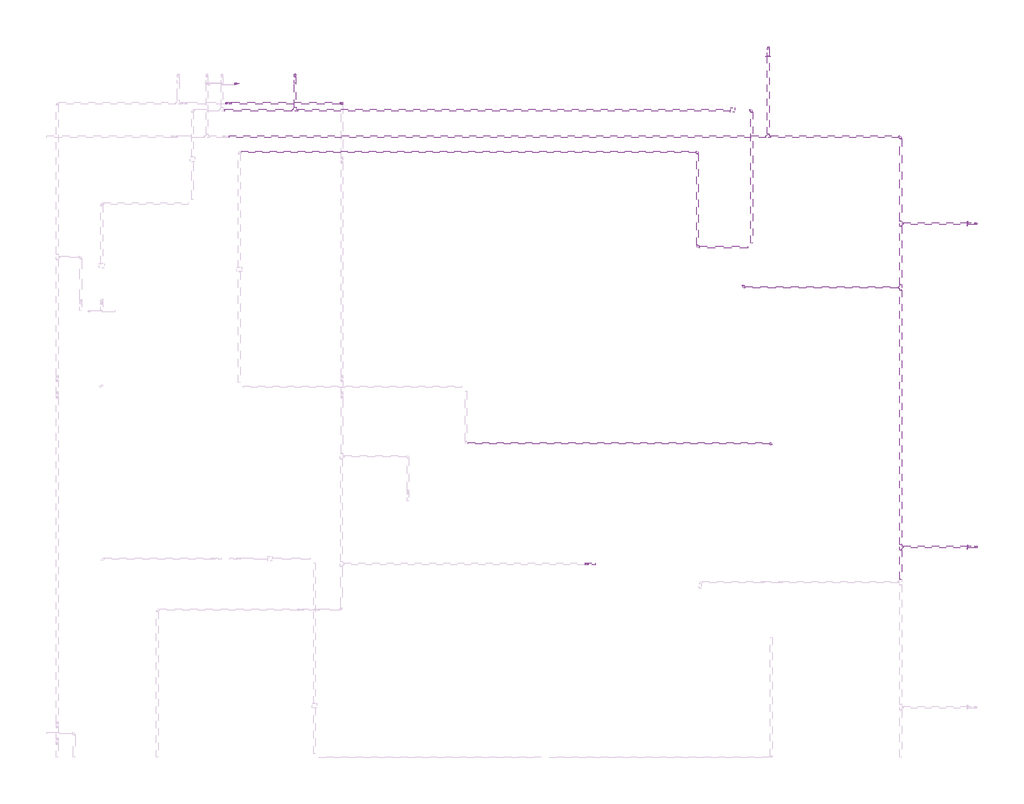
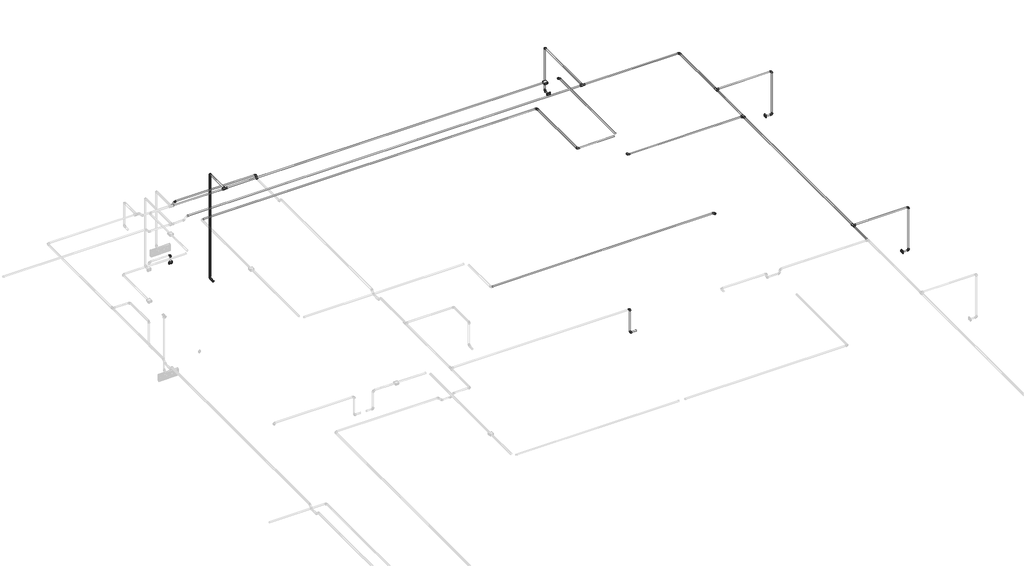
# One storey, part 40 of 40: 33 cable carrier segments, 26 cable carrier fittings, 4 electric appliances, 1 alarm.
"""IFC4 building model written with IfcOpenShell, lengths in millimetres."""

from ifc_helpers import new_model, si_unit, point, frame, frame_2d, origin, place, context, project, spatial, circle_curve, trimmed, segment, composite_curve, outline, extrude, transform, mapped, element, save
from components import alarm_a2247946, cable_carrier_fitting_69f1a801, cable_carrier_fitting_8122f9af, cable_carrier_fitting_8fd13dfc, cable_carrier_fitting_562c9cff, electric_appliance_5961a143

model = new_model("IFC4")

# Units and contexts
model_context = context("Model", 3, world=origin())
ifc_project = project(units=[si_unit("LENGTHUNIT", "METRE", prefix="MILLI")], contexts=[model_context])

# Site, building, storey
site = spatial("IfcSite", under=ifc_project)
building = spatial("IfcBuilding", under=site)
storey = spatial("IfcBuildingStorey", under=building, Name="1 этаж", Elevation=0.0)

# Alarm
placement = place(None, origin())
alarm_shape = alarm_a2247946(model_context)
element("IfcAlarm", 1, ObjectType="RBZ_ИзоляторШлейфа_Рубеж_ИЗ-1_прот.R3(плоскость) : ИЗ-1 прот.R3", at=placement, inside=storey, context=model_context, shape_type="MappedRepresentation", body=[
    mapped(alarm_shape, transform((17722.6759979, 21124.6367649, 3200.103876), x_axis=(1.0, 0.0, 0.0), y_axis=(0.0, 1.0, 0.0), z_axis=(0.0, 0.0, 1.0))),
])

# Cable carrier fittings
cable_carrier_fitting_shape = cable_carrier_fitting_69f1a801(model_context)
element("IfcCableCarrierFitting", 2, ObjectType="ADSK_Поворот_Минимальный размер : Неспецифицируемый", at=placement, inside=storey, context=model_context, shape_type="MappedRepresentation", body=[
    mapped(cable_carrier_fitting_shape, transform((18157.6759979, 17381.136913, 3189.2746228), x_axis=(0.0, 0.9999999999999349, -3.6093478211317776e-07), y_axis=(-1.0000000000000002, 0.0, 0.0), z_axis=(0.0, 3.6093478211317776e-07, 0.9999999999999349))),
])
element("IfcCableCarrierFitting", 3, ObjectType="ADSK_Поворот_Минимальный размер : Неспецифицируемый", at=placement, inside=storey, context=model_context, shape_type="MappedRepresentation", body=[
    mapped(cable_carrier_fitting_shape, transform((12807.6759979, 21521.8368161, 1500.0), x_axis=(0.0, 1.0, 0.0), y_axis=(0.0, 0.0, 1.0), z_axis=(1.0, 0.0, 0.0))),
])
element("IfcCableCarrierFitting", 4, ObjectType="ADSK_Поворот_Минимальный размер : Неспецифицируемый", at=placement, inside=storey, context=model_context, shape_type="MappedRepresentation", body=[
    mapped(cable_carrier_fitting_shape, transform((12807.6759979, 21521.8368161, 3189.353876), x_axis=(0.0, 0.0, 1.0), y_axis=(0.0, -1.0, 0.0), z_axis=(1.0, 0.0, 0.0))),
])
element("IfcCableCarrierFitting", 5, ObjectType="ADSK_Поворот_Минимальный размер : Неспецифицируемый", at=placement, inside=storey, context=model_context, shape_type="MappedRepresentation", body=[
    mapped(cable_carrier_fitting_shape, transform((18122.6759979, 21828.8368161, 2488.0911237), x_axis=(0.0, 1.0, 0.0), y_axis=(0.0, 0.0, 1.0), z_axis=(1.0, 0.0, 0.0))),
])
element("IfcCableCarrierFitting", 6, ObjectType="ADSK_Поворот_Минимальный размер : Неспецифицируемый", at=placement, inside=storey, context=model_context, shape_type="MappedRepresentation", body=[
    mapped(cable_carrier_fitting_shape, transform((20461.8758035, 19849.6370105, 2488.0911237), x_axis=(1.0, 0.0, 0.0), y_axis=(0.0, 0.0, 1.0), z_axis=(0.0, -1.0, 0.0))),
])
element("IfcCableCarrierFitting", 7, ObjectType="ADSK_Поворот_Минимальный размер : Неспецифицируемый", at=placement, inside=storey, context=model_context, shape_type="MappedRepresentation", body=[
    mapped(cable_carrier_fitting_shape, transform((17840.1759979, 19131.7461911, 3187.0), x_axis=(0.0, -1.0, 0.0), y_axis=(1.0, 0.0, 0.0), z_axis=(0.0, 0.0, 1.0))),
])
element("IfcCableCarrierFitting", 8, ObjectType="ADSK_Поворот_Минимальный размер : Неспецифицируемый", at=placement, inside=storey, context=model_context, shape_type="MappedRepresentation", body=[
    mapped(cable_carrier_fitting_shape, transform((20461.8758035, 16214.6370105, 2488.0911237), x_axis=(1.0, 0.0, 0.0), y_axis=(0.0, 0.0, 1.0), z_axis=(0.0, -1.0, 0.0))),
])
element("IfcCableCarrierFitting", 9, ObjectType="ADSK_Поворот_Минимальный размер : Неспецифицируемый", at=placement, inside=storey, context=model_context, shape_type="MappedRepresentation", body=[
    mapped(cable_carrier_fitting_shape, transform((20461.8758035, 16214.6370105, 3187.0), x_axis=(0.0, 0.0, 1.0), y_axis=(-1.0, 0.0, 0.0), z_axis=(0.0, -1.0, 0.0))),
])
element("IfcCableCarrierFitting", 10, ObjectType="ADSK_Поворот_Минимальный размер : Неспецифицируемый", at=placement, inside=storey, context=model_context, shape_type="MappedRepresentation", body=[
    mapped(cable_carrier_fitting_shape, transform((16080.4761923, 16024.6370105, 2797.4861504), x_axis=(-1.0, 0.0, 0.0), y_axis=(0.0, 0.0, 1.0), z_axis=(0.0, 1.0, 0.0))),
])
element("IfcCableCarrierFitting", 11, ObjectType="ADSK_Поворот_Минимальный размер : Неспецифицируемый", at=placement, inside=storey, context=model_context, shape_type="MappedRepresentation", body=[
    mapped(cable_carrier_fitting_shape, transform((16080.4761923, 16024.6370105, 3180.0), x_axis=(0.0, 0.0, 1.0), y_axis=(-1.0, 0.0, 0.0), z_axis=(0.0, -1.0, 0.0))),
])
element("IfcCableCarrierFitting", 12, ObjectType="ADSK_Поворот_Минимальный размер : Неспецифицируемый", at=placement, inside=storey, context=model_context, shape_type="MappedRepresentation", body=[
    mapped(cable_carrier_fitting_shape, transform((17937.6759979, 21124.6367649, 3189.354197), x_axis=(0.0, 0.9999999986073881, 5.2775220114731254e-05), y_axis=(-0.9999999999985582, 8.961934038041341e-11, -1.6981329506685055e-06), z_axis=(-1.6981329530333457e-06, -5.277522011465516e-05, 0.9999999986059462))),
])
element("IfcCableCarrierFitting", 13, ObjectType="ADSK_Поворот_Минимальный размер : Неспецифицируемый", at=placement, inside=storey, context=model_context, shape_type="MappedRepresentation", body=[
    mapped(cable_carrier_fitting_shape, transform((17328.0296445, 19584.6370105, 3189.4), x_axis=(0.0, -1.0, 0.0), y_axis=(1.0, 0.0, 0.0), z_axis=(0.0, 0.0, 1.0))),
])
element("IfcCableCarrierFitting", 14, ObjectType="ADSK_Поворот_Минимальный размер : Неспецифицируемый", at=placement, inside=storey, context=model_context, shape_type="MappedRepresentation", body=[
    mapped(cable_carrier_fitting_shape, transform((19611.1577564, 20824.6370105, 3187.0), x_axis=(0.0, 1.0, 0.0), y_axis=(-1.0, 0.0, 0.0), z_axis=(0.0, 0.0, 1.0))),
])
element("IfcCableCarrierFitting", 15, ObjectType="ADSK_Поворот_Минимальный размер : Неспецифицируемый", at=placement, inside=storey, context=model_context, shape_type="MappedRepresentation", body=[
    mapped(cable_carrier_fitting_shape, transform((18122.6759979, 21828.8368161, 3187.0), x_axis=(0.0, 0.0, 1.0), y_axis=(0.0, -1.0, 0.0), z_axis=(1.0, 0.0, 0.0))),
])
element("IfcCableCarrierFitting", 16, ObjectType="ADSK_Поворот_Минимальный размер : Неспецифицируемый", at=placement, inside=storey, context=model_context, shape_type="MappedRepresentation", body=[
    mapped(cable_carrier_fitting_shape, transform((12149.7744952, 21421.6370105, 2160.0), x_axis=(0.0, 0.0, 1.0), y_axis=(-1.0, 0.0, 0.0), z_axis=(0.0, -1.0, 0.0))),
])
element("IfcCableCarrierFitting", 17, ObjectType="ADSK_Поворот_Минимальный размер : Неспецифицируемый", at=placement, inside=storey, context=model_context, shape_type="MappedRepresentation", body=[
    mapped(cable_carrier_fitting_shape, transform((13336.5137184, 21203.5340481, 3130.0), x_axis=(0.0, 1.0, 0.0), y_axis=(0.0, 0.0, 1.0), z_axis=(1.0, 0.0, 0.0))),
])
element("IfcCableCarrierFitting", 18, ObjectType="ADSK_Поворот_Минимальный размер : Неспецифицируемый", at=placement, inside=storey, context=model_context, shape_type="MappedRepresentation", body=[
    mapped(cable_carrier_fitting_shape, transform((13336.5137184, 21203.5340481, 3180.0), x_axis=(0.0, 0.0, 1.0), y_axis=(-1.0, 0.0, 0.0), z_axis=(0.0, -1.0, 0.0))),
])
element("IfcCableCarrierFitting", 19, ObjectType="ADSK_Поворот_Минимальный размер : Неспецифицируемый", at=placement, inside=storey, context=model_context, shape_type="MappedRepresentation", body=[
    mapped(cable_carrier_fitting_shape, transform((20461.8758035, 19849.6370105, 3187.0), x_axis=(0.0, 0.0, 1.0), y_axis=(-1.0, 0.0, 0.0), z_axis=(0.0, -1.0, 0.0))),
])
cable_carrier_fitting_2_shape = cable_carrier_fitting_8122f9af(model_context)
element("IfcCableCarrierFitting", 20, ObjectType="ADSK_Поворот_Минимальный размер : Неспецифицируемый", at=placement, inside=storey, context=model_context, shape_type="MappedRepresentation", body=[
    mapped(cable_carrier_fitting_2_shape, transform((12039.1117529, 21203.5340481, 3130.0), x_axis=(1.0, 0.0, 0.0), y_axis=(0.0, 0.0, 1.0), z_axis=(0.0, -1.0, 0.0))),
])
element("IfcCableCarrierFitting", 21, ObjectType="ADSK_Поворот_Минимальный размер : Неспецифицируемый", at=placement, inside=storey, context=model_context, shape_type="MappedRepresentation", body=[
    mapped(cable_carrier_fitting_2_shape, transform((12089.1117529, 21203.5340481, 3180.0), x_axis=(0.7071067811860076, 0.0, 0.7071067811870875), y_axis=(0.7071067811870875, 0.0, -0.7071067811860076), z_axis=(0.0, 1.0, 0.0))),
])
cable_carrier_fitting_3_shape = cable_carrier_fitting_8fd13dfc(model_context)
element("IfcCableCarrierFitting", 22, ObjectType="ADSK_Тройник : ПВХ", at=placement, inside=storey, context=model_context, shape_type="MappedRepresentation", body=[
    mapped(cable_carrier_fitting_3_shape, transform((12807.6759979, 21124.6367649, 3189.353876), x_axis=(-1.0, 0.0, 0.0), y_axis=(0.0, -1.0, 0.0), z_axis=(0.0, 0.0, 1.0))),
])
element("IfcCableCarrierFitting", 23, ObjectType="ADSK_Тройник : ПВХ", at=placement, inside=storey, context=model_context, shape_type="MappedRepresentation", body=[
    mapped(cable_carrier_fitting_3_shape, transform((19611.1577564, 19131.7461911, 3187.0), x_axis=(0.0, -1.0, 0.0), y_axis=(1.0, 0.0, 0.0), z_axis=(0.0, 0.0, 1.0))),
])
element("IfcCableCarrierFitting", 24, ObjectType="ADSK_Тройник : ПВХ", at=placement, inside=storey, context=model_context, shape_type="MappedRepresentation", body=[
    mapped(cable_carrier_fitting_3_shape, transform((19611.1577564, 16214.6370105, 3187.0), x_axis=(0.0, 1.0, 0.0), y_axis=(-1.0, 0.0, 0.0), z_axis=(0.0, 0.0, 1.0))),
])
element("IfcCableCarrierFitting", 25, ObjectType="ADSK_Тройник : ПВХ", at=placement, inside=storey, context=model_context, shape_type="MappedRepresentation", body=[
    mapped(cable_carrier_fitting_3_shape, transform((18122.6759979, 20824.6370105, 3187.0), x_axis=(-1.0, 0.0, 0.0), y_axis=(0.0, -1.0, 0.0), z_axis=(0.0, 0.0, 1.0))),
])
element("IfcCableCarrierFitting", 26, ObjectType="ADSK_Тройник : ПВХ", at=placement, inside=storey, context=model_context, shape_type="MappedRepresentation", body=[
    mapped(cable_carrier_fitting_3_shape, transform((19611.1577564, 19849.6370105, 3187.0), x_axis=(0.0, 1.0, 0.0), y_axis=(-1.0, 0.0, 0.0), z_axis=(0.0, 0.0, 1.0))),
])
cable_carrier_fitting_4_shape = cable_carrier_fitting_562c9cff(model_context)
element("IfcCableCarrierFitting", 27, ObjectType="ADSK_Поворот_Минимальный размер : Неспецифицируемый", at=placement, inside=storey, context=model_context, shape_type="MappedRepresentation", body=[
    mapped(cable_carrier_fitting_4_shape, transform((17328.0296445, 20654.6365073, 3189.4), x_axis=(0.0, 1.0, 0.0), y_axis=(-1.0, 0.0, 0.0), z_axis=(0.0, 0.0, 1.0))),
])

# Cable carrier segments
element("IfcCableCarrierSegment", 28, ObjectType="Гофрированная труба", at=placement, inside=storey, context=model_context, shape_type="SweptSolid", body=[
    extrude(outline(composite_curve([segment(trimmed(circle_curve(frame_2d((17381.136913, 3189.2746228)), 10.0), [point((17391.136913, 3189.2742034))], [point((17381.1364935, 3179.2746228))], False, "CARTESIAN"), True, "CONTINUOUS"), segment(trimmed(circle_curve(frame_2d((17381.136913, 3189.2746228)), 10.0), [point((17381.1364935, 3179.2746228))], [point((17371.136913, 3189.2750423))], False, "CARTESIAN"), True, "CONTINUOUS"), segment(trimmed(circle_curve(frame_2d((17381.136913, 3189.2746228)), 10.0), [point((17371.136913, 3189.2750423))], [point((17381.1373325, 3199.2746228))], False, "CARTESIAN"), True, "CONTINUOUS"), segment(trimmed(circle_curve(frame_2d((17381.136913, 3189.2746228)), 10.0), [point((17381.1373325, 3199.2746228))], [point((17391.136913, 3189.2742034))], False, "CARTESIAN"), True, "CONTINUOUS")], self_intersect=False)), frame((14748.6759979, 0.0, 0.0), z_axis=(1.0, 0.0, 0.0), x_axis=(0.0, 1.0, 0.0)), (0.0, 0.0, 1.0), 3388.0),
])
element("IfcCableCarrierSegment", 29, ObjectType="Гофрированная труба", at=placement, inside=storey, context=model_context, shape_type="SweptSolid", body=[
    extrude(outline(composite_curve([segment(trimmed(circle_curve(frame_2d((0.0, 10.0)), 10.0), [point((-10.0, 10.0))], [point((0.0, 20.0))], False, "CARTESIAN"), True, "CONTINUOUS"), segment(trimmed(circle_curve(frame_2d((0.0, 10.0)), 10.0), [point((0.0, 20.0))], [point((10.0, 10.0))], False, "CARTESIAN"), True, "CONTINUOUS"), segment(trimmed(circle_curve(frame_2d((0.0, 10.0)), 10.0), [point((10.0, 10.0))], [point((0.0, 0.0))], False, "CARTESIAN"), True, "CONTINUOUS"), segment(trimmed(circle_curve(frame_2d((0.0, 10.0)), 10.0), [point((0.0, 0.0))], [point((-10.0, 10.0))], False, "CARTESIAN"), True, "CONTINUOUS")], self_intersect=False)), frame((17307.0296463, 20654.6365092, 3179.4), z_axis=(-0.9999999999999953, 9.677645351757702e-08, 0.0), x_axis=(-9.677645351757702e-08, -0.9999999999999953, 0.0)), (0.0, 0.0, 1.0), 5103.8321798),
])
element("IfcCableCarrierSegment", 30, ObjectType="Гофрированная труба", at=placement, inside=storey, context=model_context, shape_type="SweptSolid", body=[
    extrude(outline(composite_curve([segment(trimmed(circle_curve(frame_2d((21124.6367649, 3189.353876)), 10.0), [point((21114.6367649, 3189.353876))], [point((21124.6367649, 3199.353876))], False, "CARTESIAN"), True, "CONTINUOUS"), segment(trimmed(circle_curve(frame_2d((21124.6367649, 3189.353876)), 10.0), [point((21124.6367649, 3199.353876))], [point((21134.6367649, 3189.353876))], False, "CARTESIAN"), True, "CONTINUOUS"), segment(trimmed(circle_curve(frame_2d((21124.6367649, 3189.353876)), 10.0), [point((21134.6367649, 3189.353876))], [point((21124.6367649, 3179.353876))], False, "CARTESIAN"), True, "CONTINUOUS"), segment(trimmed(circle_curve(frame_2d((21124.6367649, 3189.353876)), 10.0), [point((21124.6367649, 3179.353876))], [point((21114.6367649, 3189.353876))], False, "CARTESIAN"), True, "CONTINUOUS")], self_intersect=False)), frame((12017.6759979, 0.0, 0.0), z_axis=(1.0, 0.0, 0.0), x_axis=(0.0, 1.0, 0.0)), (0.0, 0.0, 1.0), 760.0),
])
element("IfcCableCarrierSegment", 31, ObjectType="Гофрированная труба", at=placement, inside=storey, context=model_context, shape_type="SweptSolid", body=[
    extrude(outline(composite_curve([segment(trimmed(circle_curve(frame_2d((21124.6367649, 3189.353876)), 10.0), [point((21134.6367649, 3189.353876))], [point((21124.6367649, 3179.353876))], False, "CARTESIAN"), True, "CONTINUOUS"), segment(trimmed(circle_curve(frame_2d((21124.6367649, 3189.353876)), 10.0), [point((21124.6367649, 3179.353876))], [point((21114.6367649, 3189.353876))], False, "CARTESIAN"), True, "CONTINUOUS"), segment(trimmed(circle_curve(frame_2d((21124.6367649, 3189.353876)), 10.0), [point((21114.6367649, 3189.353876))], [point((21124.6367649, 3199.353876))], False, "CARTESIAN"), True, "CONTINUOUS"), segment(trimmed(circle_curve(frame_2d((21124.6367649, 3189.353876)), 10.0), [point((21124.6367649, 3199.353876))], [point((21134.6367649, 3189.353876))], False, "CARTESIAN"), True, "CONTINUOUS")], self_intersect=False)), frame((12837.6759979, 0.0, 0.0), z_axis=(1.0, 0.0, 0.0), x_axis=(0.0, 1.0, 0.0)), (0.0, 0.0, 1.0), 4859.0),
])
element("IfcCableCarrierSegment", 32, ObjectType="Гофрированная труба", at=placement, inside=storey, context=model_context, shape_type="SweptSolid", body=[
    extrude(outline(composite_curve([segment(trimmed(circle_curve(frame_2d((0.0, -10.0)), 10.0), [point((0.0, 0.0))], [point((10.0, -10.0))], False, "CARTESIAN"), True, "CONTINUOUS"), segment(trimmed(circle_curve(frame_2d((0.0, -10.0)), 10.0), [point((10.0, -10.0))], [point((0.0, -20.0))], False, "CARTESIAN"), True, "CONTINUOUS"), segment(trimmed(circle_curve(frame_2d((0.0, -10.0)), 10.0), [point((0.0, -20.0))], [point((-10.0, -10.0))], False, "CARTESIAN"), True, "CONTINUOUS"), segment(trimmed(circle_curve(frame_2d((0.0, -10.0)), 10.0), [point((-10.0, -10.0))], [point((0.0, 0.0))], False, "CARTESIAN"), True, "CONTINUOUS")], self_intersect=False)), frame((17927.6759979, 19631.1370105, 3189.4), z_axis=(0.0, 0.9999999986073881, 5.277522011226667e-05), x_axis=(0.0, 5.277522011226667e-05, -0.9999999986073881)), (0.0, 0.0, 1.0), 1472.4997499),
])
element("IfcCableCarrierSegment", 33, ObjectType="Гофрированная труба", at=placement, inside=storey, context=model_context, shape_type="SweptSolid", body=[
    extrude(outline(composite_curve([segment(trimmed(circle_curve(frame_2d((3189.353876, 12807.6759979)), 10.0), [point((3189.353876, 12817.6759979))], [point((3199.353876, 12807.6759979))], False, "CARTESIAN"), True, "CONTINUOUS"), segment(trimmed(circle_curve(frame_2d((3189.353876, 12807.6759979)), 10.0), [point((3199.353876, 12807.6759979))], [point((3189.353876, 12797.6759979))], False, "CARTESIAN"), True, "CONTINUOUS"), segment(trimmed(circle_curve(frame_2d((3189.353876, 12807.6759979)), 10.0), [point((3189.353876, 12797.6759979))], [point((3179.353876, 12807.6759979))], False, "CARTESIAN"), True, "CONTINUOUS"), segment(trimmed(circle_curve(frame_2d((3189.353876, 12807.6759979)), 10.0), [point((3179.353876, 12807.6759979))], [point((3189.353876, 12817.6759979))], False, "CARTESIAN"), True, "CONTINUOUS")], self_intersect=False)), frame((0.0, 21154.6367649, 0.0), z_axis=(0.0, 1.0, 0.0), x_axis=(0.0, 0.0, 1.0)), (0.0, 0.0, 1.0), 346.2000512),
])
element("IfcCableCarrierSegment", 34, ObjectType="Гофрированная труба", at=placement, inside=storey, context=model_context, shape_type="SweptSolid", body=[
    extrude(outline(composite_curve([segment(trimmed(circle_curve(frame_2d((1500.0, 12807.6759979)), 10.0), [point((1500.0, 12817.6759979))], [point((1510.0, 12807.6759979))], False, "CARTESIAN"), True, "CONTINUOUS"), segment(trimmed(circle_curve(frame_2d((1500.0, 12807.6759979)), 10.0), [point((1510.0, 12807.6759979))], [point((1500.0, 12797.6759979))], False, "CARTESIAN"), True, "CONTINUOUS"), segment(trimmed(circle_curve(frame_2d((1500.0, 12807.6759979)), 10.0), [point((1500.0, 12797.6759979))], [point((1490.0, 12807.6759979))], False, "CARTESIAN"), True, "CONTINUOUS"), segment(trimmed(circle_curve(frame_2d((1500.0, 12807.6759979)), 10.0), [point((1490.0, 12807.6759979))], [point((1500.0, 12817.6759979))], False, "CARTESIAN"), True, "CONTINUOUS")], self_intersect=False)), frame((0.0, 21424.6370105, 0.0), z_axis=(0.0, 1.0, 0.0), x_axis=(0.0, 0.0, 1.0)), (0.0, 0.0, 1.0), 76.1998056),
])
element("IfcCableCarrierSegment", 35, ObjectType="Гофрированная труба", at=placement, inside=storey, context=model_context, shape_type="SweptSolid", body=[
    extrude(outline(composite_curve([segment(trimmed(circle_curve(frame_2d((12807.6759979, 21521.8368161)), 10.0), [point((12797.6759979, 21521.8368161))], [point((12807.6759979, 21531.8368161))], False, "CARTESIAN"), True, "CONTINUOUS"), segment(trimmed(circle_curve(frame_2d((12807.6759979, 21521.8368161)), 10.0), [point((12807.6759979, 21531.8368161))], [point((12817.6759979, 21521.8368161))], False, "CARTESIAN"), True, "CONTINUOUS"), segment(trimmed(circle_curve(frame_2d((12807.6759979, 21521.8368161)), 10.0), [point((12817.6759979, 21521.8368161))], [point((12807.6759979, 21511.8368161))], False, "CARTESIAN"), True, "CONTINUOUS"), segment(trimmed(circle_curve(frame_2d((12807.6759979, 21521.8368161)), 10.0), [point((12807.6759979, 21511.8368161))], [point((12797.6759979, 21521.8368161))], False, "CARTESIAN"), True, "CONTINUOUS")], self_intersect=False)), frame((0.0, 0.0, 1521.0), z_axis=(0.0, 0.0, 1.0), x_axis=(1.0, 0.0, 0.0)), (0.0, 0.0, 1.0), 1647.353876),
])
element("IfcCableCarrierSegment", 36, ObjectType="Гофрированная труба", at=placement, inside=storey, context=model_context, shape_type="SweptSolid", body=[
    extrude(outline(composite_curve([segment(trimmed(circle_curve(frame_2d((3187.0, 18122.6759979)), 10.0), [point((3187.0, 18112.6759979))], [point((3177.0, 18122.6759979))], False, "CARTESIAN"), True, "CONTINUOUS"), segment(trimmed(circle_curve(frame_2d((3187.0, 18122.6759979)), 10.0), [point((3177.0, 18122.6759979))], [point((3187.0, 18132.6759979))], False, "CARTESIAN"), True, "CONTINUOUS"), segment(trimmed(circle_curve(frame_2d((3187.0, 18122.6759979)), 10.0), [point((3187.0, 18132.6759979))], [point((3197.0, 18122.6759979))], False, "CARTESIAN"), True, "CONTINUOUS"), segment(trimmed(circle_curve(frame_2d((3187.0, 18122.6759979)), 10.0), [point((3197.0, 18122.6759979))], [point((3187.0, 18112.6759979))], False, "CARTESIAN"), True, "CONTINUOUS")], self_intersect=False)), frame((0.0, 20854.6370105, 0.0), z_axis=(0.0, 1.0, 0.0), x_axis=(0.0, 0.0, 1.0)), (0.0, 0.0, 1.0), 953.1998056),
])
element("IfcCableCarrierSegment", 37, ObjectType="Гофрированная труба", at=placement, inside=storey, context=model_context, shape_type="SweptSolid", body=[
    extrude(outline(composite_curve([segment(trimmed(circle_curve(frame_2d((2488.0911237, 18122.6759979)), 10.0), [point((2488.0911237, 18132.6759979))], [point((2498.0911237, 18122.6759979))], False, "CARTESIAN"), True, "CONTINUOUS"), segment(trimmed(circle_curve(frame_2d((2488.0911237, 18122.6759979)), 10.0), [point((2498.0911237, 18122.6759979))], [point((2488.0911237, 18112.6759979))], False, "CARTESIAN"), True, "CONTINUOUS"), segment(trimmed(circle_curve(frame_2d((2488.0911237, 18122.6759979)), 10.0), [point((2488.0911237, 18112.6759979))], [point((2478.0911237, 18122.6759979))], False, "CARTESIAN"), True, "CONTINUOUS"), segment(trimmed(circle_curve(frame_2d((2488.0911237, 18122.6759979)), 10.0), [point((2478.0911237, 18122.6759979))], [point((2488.0911237, 18132.6759979))], False, "CARTESIAN"), True, "CONTINUOUS")], self_intersect=False)), frame((0.0, 21731.6370105, 0.0), z_axis=(0.0, 1.0, 0.0), x_axis=(0.0, 0.0, 1.0)), (0.0, 0.0, 1.0), 76.1998056),
])
element("IfcCableCarrierSegment", 38, ObjectType="Гофрированная труба", at=placement, inside=storey, context=model_context, shape_type="SweptSolid", body=[
    extrude(outline(composite_curve([segment(trimmed(circle_curve(frame_2d((18122.6759979, 21828.8368161)), 10.0), [point((18112.6759979, 21828.8368161))], [point((18122.6759979, 21838.8368161))], False, "CARTESIAN"), True, "CONTINUOUS"), segment(trimmed(circle_curve(frame_2d((18122.6759979, 21828.8368161)), 10.0), [point((18122.6759979, 21838.8368161))], [point((18132.6759979, 21828.8368161))], False, "CARTESIAN"), True, "CONTINUOUS"), segment(trimmed(circle_curve(frame_2d((18122.6759979, 21828.8368161)), 10.0), [point((18132.6759979, 21828.8368161))], [point((18122.6759979, 21818.8368161))], False, "CARTESIAN"), True, "CONTINUOUS"), segment(trimmed(circle_curve(frame_2d((18122.6759979, 21828.8368161)), 10.0), [point((18122.6759979, 21818.8368161))], [point((18112.6759979, 21828.8368161))], False, "CARTESIAN"), True, "CONTINUOUS")], self_intersect=False)), frame((0.0, 0.0, 2509.0911237), z_axis=(0.0, 0.0, 1.0), x_axis=(1.0, 0.0, 0.0)), (0.0, 0.0, 1.0), 656.9088763),
])
element("IfcCableCarrierSegment", 39, ObjectType="Гофрированная труба", at=placement, inside=storey, context=model_context, shape_type="SweptSolid", body=[
    extrude(outline(composite_curve([segment(trimmed(circle_curve(frame_2d((19849.6370105, 3187.0)), 10.0), [point((19859.6370105, 3187.0))], [point((19849.6370105, 3177.0))], False, "CARTESIAN"), True, "CONTINUOUS"), segment(trimmed(circle_curve(frame_2d((19849.6370105, 3187.0)), 10.0), [point((19849.6370105, 3177.0))], [point((19839.6370105, 3187.0))], False, "CARTESIAN"), True, "CONTINUOUS"), segment(trimmed(circle_curve(frame_2d((19849.6370105, 3187.0)), 10.0), [point((19839.6370105, 3187.0))], [point((19849.6370105, 3197.0))], False, "CARTESIAN"), True, "CONTINUOUS"), segment(trimmed(circle_curve(frame_2d((19849.6370105, 3187.0)), 10.0), [point((19849.6370105, 3197.0))], [point((19859.6370105, 3187.0))], False, "CARTESIAN"), True, "CONTINUOUS")], self_intersect=False)), frame((19641.1577564, 0.0, 0.0), z_axis=(1.0, 0.0, 0.0), x_axis=(0.0, 1.0, 0.0)), (0.0, 0.0, 1.0), 799.7180471),
])
element("IfcCableCarrierSegment", 40, ObjectType="Гофрированная труба", at=placement, inside=storey, context=model_context, shape_type="SweptSolid", body=[
    extrude(outline(composite_curve([segment(trimmed(circle_curve(frame_2d((19849.6370105, 2488.0911237)), 10.0), [point((19839.6370105, 2488.0911237))], [point((19849.6370105, 2498.0911237))], False, "CARTESIAN"), True, "CONTINUOUS"), segment(trimmed(circle_curve(frame_2d((19849.6370105, 2488.0911237)), 10.0), [point((19849.6370105, 2498.0911237))], [point((19859.6370105, 2488.0911237))], False, "CARTESIAN"), True, "CONTINUOUS"), segment(trimmed(circle_curve(frame_2d((19849.6370105, 2488.0911237)), 10.0), [point((19859.6370105, 2488.0911237))], [point((19849.6370105, 2478.0911237))], False, "CARTESIAN"), True, "CONTINUOUS"), segment(trimmed(circle_curve(frame_2d((19849.6370105, 2488.0911237)), 10.0), [point((19849.6370105, 2478.0911237))], [point((19839.6370105, 2488.0911237))], False, "CARTESIAN"), True, "CONTINUOUS")], self_intersect=False)), frame((20364.6759979, 0.0, 0.0), z_axis=(1.0, 0.0, 0.0), x_axis=(0.0, 1.0, 0.0)), (0.0, 0.0, 1.0), 76.1998056),
])
element("IfcCableCarrierSegment", 41, ObjectType="Гофрированная труба", at=placement, inside=storey, context=model_context, shape_type="SweptSolid", body=[
    extrude(outline(composite_curve([segment(trimmed(circle_curve(frame_2d((20461.8758035, 19849.6370105)), 10.0), [point((20451.8758035, 19849.6370105))], [point((20461.8758035, 19859.6370105))], False, "CARTESIAN"), True, "CONTINUOUS"), segment(trimmed(circle_curve(frame_2d((20461.8758035, 19849.6370105)), 10.0), [point((20461.8758035, 19859.6370105))], [point((20471.8758035, 19849.6370105))], False, "CARTESIAN"), True, "CONTINUOUS"), segment(trimmed(circle_curve(frame_2d((20461.8758035, 19849.6370105)), 10.0), [point((20471.8758035, 19849.6370105))], [point((20461.8758035, 19839.6370105))], False, "CARTESIAN"), True, "CONTINUOUS"), segment(trimmed(circle_curve(frame_2d((20461.8758035, 19849.6370105)), 10.0), [point((20461.8758035, 19839.6370105))], [point((20451.8758035, 19849.6370105))], False, "CARTESIAN"), True, "CONTINUOUS")], self_intersect=False)), frame((0.0, 0.0, 2509.0911237), z_axis=(0.0, 0.0, 1.0), x_axis=(1.0, 0.0, 0.0)), (0.0, 0.0, 1.0), 656.9088763),
])
element("IfcCableCarrierSegment", 42, ObjectType="Гофрированная труба", at=placement, inside=storey, context=model_context, shape_type="SweptSolid", body=[
    extrude(outline(composite_curve([segment(trimmed(circle_curve(frame_2d((0.0, -10.0)), 10.0), [point((0.0, 0.0))], [point((10.0, -10.0))], False, "CARTESIAN"), True, "CONTINUOUS"), segment(trimmed(circle_curve(frame_2d((0.0, -10.0)), 10.0), [point((10.0, -10.0))], [point((0.0, -20.0))], False, "CARTESIAN"), True, "CONTINUOUS"), segment(trimmed(circle_curve(frame_2d((0.0, -10.0)), 10.0), [point((0.0, -20.0))], [point((-10.0, -10.0))], False, "CARTESIAN"), True, "CONTINUOUS"), segment(trimmed(circle_curve(frame_2d((0.0, -10.0)), 10.0), [point((-10.0, -10.0))], [point((0.0, 0.0))], False, "CARTESIAN"), True, "CONTINUOUS")], self_intersect=False)), frame((17830.1759979, 19152.7461911, 3187.0), z_axis=(2.923741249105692e-12, 1.0, 0.0), x_axis=(0.0, 0.0, -1.0)), (0.0, 0.0, 1.0), 5.9633976),
])
element("IfcCableCarrierSegment", 43, ObjectType="Гофрированная труба", at=placement, inside=storey, context=model_context, shape_type="SweptSolid", body=[
    extrude(outline(composite_curve([segment(trimmed(circle_curve(frame_2d((19131.7461911, 3187.0)), 10.0), [point((19141.7461911, 3187.0))], [point((19131.7461911, 3177.0))], False, "CARTESIAN"), True, "CONTINUOUS"), segment(trimmed(circle_curve(frame_2d((19131.7461911, 3187.0)), 10.0), [point((19131.7461911, 3177.0))], [point((19121.7461911, 3187.0))], False, "CARTESIAN"), True, "CONTINUOUS"), segment(trimmed(circle_curve(frame_2d((19131.7461911, 3187.0)), 10.0), [point((19121.7461911, 3187.0))], [point((19131.7461911, 3197.0))], False, "CARTESIAN"), True, "CONTINUOUS"), segment(trimmed(circle_curve(frame_2d((19131.7461911, 3187.0)), 10.0), [point((19131.7461911, 3197.0))], [point((19141.7461911, 3187.0))], False, "CARTESIAN"), True, "CONTINUOUS")], self_intersect=False)), frame((17861.1759979, 0.0, 0.0), z_axis=(1.0, 0.0, 0.0), x_axis=(0.0, 1.0, 0.0)), (0.0, 0.0, 1.0), 1719.9817585),
])
element("IfcCableCarrierSegment", 44, ObjectType="Гофрированная труба", at=placement, inside=storey, context=model_context, shape_type="SweptSolid", body=[
    extrude(outline(composite_curve([segment(trimmed(circle_curve(frame_2d((3187.0, 19611.1577564)), 10.0), [point((3187.0, 19601.1577564))], [point((3177.0, 19611.1577564))], False, "CARTESIAN"), True, "CONTINUOUS"), segment(trimmed(circle_curve(frame_2d((3187.0, 19611.1577564)), 10.0), [point((3177.0, 19611.1577564))], [point((3187.0, 19621.1577564))], False, "CARTESIAN"), True, "CONTINUOUS"), segment(trimmed(circle_curve(frame_2d((3187.0, 19611.1577564)), 10.0), [point((3187.0, 19621.1577564))], [point((3197.0, 19611.1577564))], False, "CARTESIAN"), True, "CONTINUOUS"), segment(trimmed(circle_curve(frame_2d((3187.0, 19611.1577564)), 10.0), [point((3197.0, 19611.1577564))], [point((3187.0, 19601.1577564))], False, "CARTESIAN"), True, "CONTINUOUS")], self_intersect=False)), frame((0.0, 19161.7461911, 0.0), z_axis=(0.0, 1.0, 0.0), x_axis=(0.0, 0.0, 1.0)), (0.0, 0.0, 1.0), 657.8908194),
])
element("IfcCableCarrierSegment", 45, ObjectType="Гофрированная труба", at=placement, inside=storey, context=model_context, shape_type="SweptSolid", body=[
    extrude(outline(composite_curve([segment(trimmed(circle_curve(frame_2d((16214.6370105, 3187.0)), 10.0), [point((16204.6370105, 3187.0))], [point((16214.6370105, 3197.0))], False, "CARTESIAN"), True, "CONTINUOUS"), segment(trimmed(circle_curve(frame_2d((16214.6370105, 3187.0)), 10.0), [point((16214.6370105, 3197.0))], [point((16224.6370105, 3187.0))], False, "CARTESIAN"), True, "CONTINUOUS"), segment(trimmed(circle_curve(frame_2d((16214.6370105, 3187.0)), 10.0), [point((16224.6370105, 3187.0))], [point((16214.6370105, 3177.0))], False, "CARTESIAN"), True, "CONTINUOUS"), segment(trimmed(circle_curve(frame_2d((16214.6370105, 3187.0)), 10.0), [point((16214.6370105, 3177.0))], [point((16204.6370105, 3187.0))], False, "CARTESIAN"), True, "CONTINUOUS")], self_intersect=False)), frame((19641.1577564, 0.0, 0.0), z_axis=(1.0, 0.0, 0.0), x_axis=(0.0, 1.0, 0.0)), (0.0, 0.0, 1.0), 799.7180471),
])
element("IfcCableCarrierSegment", 46, ObjectType="Гофрированная труба", at=placement, inside=storey, context=model_context, shape_type="SweptSolid", body=[
    extrude(outline(composite_curve([segment(trimmed(circle_curve(frame_2d((16214.6370105, 2488.0911237)), 10.0), [point((16204.6370105, 2488.0911237))], [point((16214.6370105, 2498.0911237))], False, "CARTESIAN"), True, "CONTINUOUS"), segment(trimmed(circle_curve(frame_2d((16214.6370105, 2488.0911237)), 10.0), [point((16214.6370105, 2498.0911237))], [point((16224.6370105, 2488.0911237))], False, "CARTESIAN"), True, "CONTINUOUS"), segment(trimmed(circle_curve(frame_2d((16214.6370105, 2488.0911237)), 10.0), [point((16224.6370105, 2488.0911237))], [point((16214.6370105, 2478.0911237))], False, "CARTESIAN"), True, "CONTINUOUS"), segment(trimmed(circle_curve(frame_2d((16214.6370105, 2488.0911237)), 10.0), [point((16214.6370105, 2478.0911237))], [point((16204.6370105, 2488.0911237))], False, "CARTESIAN"), True, "CONTINUOUS")], self_intersect=False)), frame((20364.6759979, 0.0, 0.0), z_axis=(1.0, 0.0, 0.0), x_axis=(0.0, 1.0, 0.0)), (0.0, 0.0, 1.0), 76.1998056),
])
element("IfcCableCarrierSegment", 47, ObjectType="Гофрированная труба", at=placement, inside=storey, context=model_context, shape_type="SweptSolid", body=[
    extrude(outline(composite_curve([segment(trimmed(circle_curve(frame_2d((20461.8758035, 16214.6370105)), 10.0), [point((20451.8758035, 16214.6370105))], [point((20461.8758035, 16224.6370105))], False, "CARTESIAN"), True, "CONTINUOUS"), segment(trimmed(circle_curve(frame_2d((20461.8758035, 16214.6370105)), 10.0), [point((20461.8758035, 16224.6370105))], [point((20471.8758035, 16214.6370105))], False, "CARTESIAN"), True, "CONTINUOUS"), segment(trimmed(circle_curve(frame_2d((20461.8758035, 16214.6370105)), 10.0), [point((20471.8758035, 16214.6370105))], [point((20461.8758035, 16204.6370105))], False, "CARTESIAN"), True, "CONTINUOUS"), segment(trimmed(circle_curve(frame_2d((20461.8758035, 16214.6370105)), 10.0), [point((20461.8758035, 16204.6370105))], [point((20451.8758035, 16214.6370105))], False, "CARTESIAN"), True, "CONTINUOUS")], self_intersect=False)), frame((0.0, 0.0, 2509.0911237), z_axis=(0.0, 0.0, 1.0), x_axis=(1.0, 0.0, 0.0)), (0.0, 0.0, 1.0), 656.9088763),
])
element("IfcCableCarrierSegment", 48, ObjectType="Гофрированная труба", at=placement, inside=storey, context=model_context, shape_type="SweptSolid", body=[
    extrude(outline(composite_curve([segment(trimmed(circle_curve(frame_2d((3187.0, 19611.1577564)), 10.0), [point((3187.0, 19601.1577564))], [point((3177.0, 19611.1577564))], False, "CARTESIAN"), True, "CONTINUOUS"), segment(trimmed(circle_curve(frame_2d((3187.0, 19611.1577564)), 10.0), [point((3177.0, 19611.1577564))], [point((3187.0, 19621.1577564))], False, "CARTESIAN"), True, "CONTINUOUS"), segment(trimmed(circle_curve(frame_2d((3187.0, 19611.1577564)), 10.0), [point((3187.0, 19621.1577564))], [point((3197.0, 19611.1577564))], False, "CARTESIAN"), True, "CONTINUOUS"), segment(trimmed(circle_curve(frame_2d((3187.0, 19611.1577564)), 10.0), [point((3197.0, 19611.1577564))], [point((3187.0, 19601.1577564))], False, "CARTESIAN"), True, "CONTINUOUS")], self_intersect=False)), frame((0.0, 16244.6370105, 0.0), z_axis=(0.0, 1.0, 0.0), x_axis=(0.0, 0.0, 1.0)), (0.0, 0.0, 1.0), 2857.1091806),
])
element("IfcCableCarrierSegment", 49, ObjectType="Гофрированная труба", at=placement, inside=storey, context=model_context, shape_type="SweptSolid", body=[
    extrude(outline(composite_curve([segment(trimmed(circle_curve(frame_2d((3187.0, 19611.1577564)), 10.0), [point((3187.0, 19601.1577564))], [point((3177.0, 19611.1577564))], False, "CARTESIAN"), True, "CONTINUOUS"), segment(trimmed(circle_curve(frame_2d((3187.0, 19611.1577564)), 10.0), [point((3177.0, 19611.1577564))], [point((3187.0, 19621.1577564))], False, "CARTESIAN"), True, "CONTINUOUS"), segment(trimmed(circle_curve(frame_2d((3187.0, 19611.1577564)), 10.0), [point((3187.0, 19621.1577564))], [point((3197.0, 19611.1577564))], False, "CARTESIAN"), True, "CONTINUOUS"), segment(trimmed(circle_curve(frame_2d((3187.0, 19611.1577564)), 10.0), [point((3197.0, 19611.1577564))], [point((3187.0, 19601.1577564))], False, "CARTESIAN"), True, "CONTINUOUS")], self_intersect=False)), frame((0.0, 15850.9060659, 0.0), z_axis=(0.0, 1.0, 0.0), x_axis=(0.0, 0.0, 1.0)), (0.0, 0.0, 1.0), 333.7309446),
])
element("IfcCableCarrierSegment", 50, ObjectType="Гофрированная труба", at=placement, inside=storey, context=model_context, shape_type="SweptSolid", body=[
    extrude(outline(composite_curve([segment(trimmed(circle_curve(frame_2d((16024.6370105, 2797.4861504)), 10.0), [point((16034.6370105, 2797.4861504))], [point((16024.6370105, 2787.4861504))], False, "CARTESIAN"), True, "CONTINUOUS"), segment(trimmed(circle_curve(frame_2d((16024.6370105, 2797.4861504)), 10.0), [point((16024.6370105, 2787.4861504))], [point((16014.6370105, 2797.4861504))], False, "CARTESIAN"), True, "CONTINUOUS"), segment(trimmed(circle_curve(frame_2d((16024.6370105, 2797.4861504)), 10.0), [point((16014.6370105, 2797.4861504))], [point((16024.6370105, 2807.4861504))], False, "CARTESIAN"), True, "CONTINUOUS"), segment(trimmed(circle_curve(frame_2d((16024.6370105, 2797.4861504)), 10.0), [point((16024.6370105, 2807.4861504))], [point((16034.6370105, 2797.4861504))], False, "CARTESIAN"), True, "CONTINUOUS")], self_intersect=False)), frame((16101.4761923, 0.0, 0.0), z_axis=(1.0, 0.0, 0.0), x_axis=(0.0, 1.0, 0.0)), (0.0, 0.0, 1.0), 76.1998056),
])
element("IfcCableCarrierSegment", 51, ObjectType="Гофрированная труба", at=placement, inside=storey, context=model_context, shape_type="SweptSolid", body=[
    extrude(outline(composite_curve([segment(trimmed(circle_curve(frame_2d((16080.4761923, 16024.6370105)), 10.0), [point((16070.4761923, 16024.6370105))], [point((16080.4761923, 16034.6370105))], False, "CARTESIAN"), True, "CONTINUOUS"), segment(trimmed(circle_curve(frame_2d((16080.4761923, 16024.6370105)), 10.0), [point((16080.4761923, 16034.6370105))], [point((16090.4761923, 16024.6370105))], False, "CARTESIAN"), True, "CONTINUOUS"), segment(trimmed(circle_curve(frame_2d((16080.4761923, 16024.6370105)), 10.0), [point((16090.4761923, 16024.6370105))], [point((16080.4761923, 16014.6370105))], False, "CARTESIAN"), True, "CONTINUOUS"), segment(trimmed(circle_curve(frame_2d((16080.4761923, 16024.6370105)), 10.0), [point((16080.4761923, 16014.6370105))], [point((16070.4761923, 16024.6370105))], False, "CARTESIAN"), True, "CONTINUOUS")], self_intersect=False)), frame((0.0, 0.0, 2818.4861504), z_axis=(0.0, 0.0, 1.0), x_axis=(1.0, 0.0, 0.0)), (0.0, 0.0, 1.0), 340.5138496),
])
element("IfcCableCarrierSegment", 52, ObjectType="Гофрированная труба", at=placement, inside=storey, context=model_context, shape_type="SweptSolid", body=[
    extrude(outline(composite_curve([segment(trimmed(circle_curve(frame_2d((21203.5340481, 3180.0)), 10.0), [point((21213.5340481, 3180.0))], [point((21203.5340481, 3170.0))], False, "CARTESIAN"), True, "CONTINUOUS"), segment(trimmed(circle_curve(frame_2d((21203.5340481, 3180.0)), 10.0), [point((21203.5340481, 3170.0))], [point((21193.5340481, 3180.0))], False, "CARTESIAN"), True, "CONTINUOUS"), segment(trimmed(circle_curve(frame_2d((21203.5340481, 3180.0)), 10.0), [point((21193.5340481, 3180.0))], [point((21203.5340481, 3190.0))], False, "CARTESIAN"), True, "CONTINUOUS"), segment(trimmed(circle_curve(frame_2d((21203.5340481, 3180.0)), 10.0), [point((21203.5340481, 3190.0))], [point((21213.5340481, 3180.0))], False, "CARTESIAN"), True, "CONTINUOUS")], self_intersect=False)), frame((12098.3960242, 0.0, 0.0), z_axis=(1.0, 0.0, 0.0), x_axis=(0.0, 1.0, 0.0)), (0.0, 0.0, 1.0), 1217.1176942),
])
element("IfcCableCarrierSegment", 53, ObjectType="Гофрированная труба", at=placement, inside=storey, context=model_context, shape_type="SweptSolid", body=[
    extrude(outline(composite_curve([segment(trimmed(circle_curve(frame_2d((0.0, 10.0)), 10.0), [point((0.0, 0.0))], [point((-10.0, 10.0))], False, "CARTESIAN"), True, "CONTINUOUS"), segment(trimmed(circle_curve(frame_2d((0.0, 10.0)), 10.0), [point((-10.0, 10.0))], [point((0.0, 20.0))], False, "CARTESIAN"), True, "CONTINUOUS"), segment(trimmed(circle_curve(frame_2d((0.0, 10.0)), 10.0), [point((0.0, 20.0))], [point((10.0000001, 10.0))], False, "CARTESIAN"), True, "CONTINUOUS"), segment(trimmed(circle_curve(frame_2d((0.0, 10.0)), 10.0), [point((10.0000001, 10.0))], [point((0.0, 0.0))], False, "CARTESIAN"), True, "CONTINUOUS")], self_intersect=False)), frame((12045.6767241, 21193.5340481, 3136.5649712), z_axis=(0.7071067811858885, 0.0, 0.7071067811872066), x_axis=(0.7071067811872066, 0.0, -0.7071067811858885)), (0.0, 0.0, 1.0), 52.1421356),
])
element("IfcCableCarrierSegment", 54, ObjectType="Гофрированная труба", at=placement, inside=storey, context=model_context, shape_type="SweptSolid", body=[
    extrude(outline(composite_curve([segment(trimmed(circle_curve(frame_2d((19584.6370105, 3189.4)), 10.0), [point((19594.6370105, 3189.4))], [point((19584.6370105, 3179.4))], False, "CARTESIAN"), True, "CONTINUOUS"), segment(trimmed(circle_curve(frame_2d((19584.6370105, 3189.4)), 10.0), [point((19584.6370105, 3179.4))], [point((19574.6370105, 3189.4))], False, "CARTESIAN"), True, "CONTINUOUS"), segment(trimmed(circle_curve(frame_2d((19584.6370105, 3189.4)), 10.0), [point((19574.6370105, 3189.4))], [point((19584.6370105, 3199.4))], False, "CARTESIAN"), True, "CONTINUOUS"), segment(trimmed(circle_curve(frame_2d((19584.6370105, 3189.4)), 10.0), [point((19584.6370105, 3199.4))], [point((19594.6370105, 3189.4))], False, "CARTESIAN"), True, "CONTINUOUS")], self_intersect=False)), frame((17349.0296445, 0.0, 0.0), z_axis=(1.0, 0.0, 0.0), x_axis=(0.0, 1.0, 0.0)), (0.0, 0.0, 1.0), 542.1463534),
])
element("IfcCableCarrierSegment", 55, ObjectType="Гофрированная труба", at=placement, inside=storey, context=model_context, shape_type="SweptSolid", body=[
    extrude(outline(composite_curve([segment(trimmed(circle_curve(frame_2d((3189.4, 17328.0296445)), 10.0), [point((3189.4, 17338.0296445))], [point((3199.4, 17328.0296445))], False, "CARTESIAN"), True, "CONTINUOUS"), segment(trimmed(circle_curve(frame_2d((3189.4, 17328.0296445)), 10.0), [point((3199.4, 17328.0296445))], [point((3189.4, 17318.0296445))], False, "CARTESIAN"), True, "CONTINUOUS"), segment(trimmed(circle_curve(frame_2d((3189.4, 17328.0296445)), 10.0), [point((3189.4, 17318.0296445))], [point((3179.4, 17328.0296445))], False, "CARTESIAN"), True, "CONTINUOUS"), segment(trimmed(circle_curve(frame_2d((3189.4, 17328.0296445)), 10.0), [point((3179.4, 17328.0296445))], [point((3189.4, 17338.0296445))], False, "CARTESIAN"), True, "CONTINUOUS")], self_intersect=False)), frame((0.0, 19605.6370105, 0.0), z_axis=(0.0, 1.0, 0.0), x_axis=(0.0, 0.0, 1.0)), (0.0, 0.0, 1.0), 1027.9994986),
])
element("IfcCableCarrierSegment", 56, ObjectType="Гофрированная труба", at=placement, inside=storey, context=model_context, shape_type="SweptSolid", body=[
    extrude(outline(composite_curve([segment(trimmed(circle_curve(frame_2d((20824.6370105, 3187.0)), 10.0), [point((20834.6370105, 3187.0))], [point((20824.6370105, 3177.0))], False, "CARTESIAN"), True, "CONTINUOUS"), segment(trimmed(circle_curve(frame_2d((20824.6370105, 3187.0)), 10.0), [point((20824.6370105, 3177.0))], [point((20814.6370105, 3187.0))], False, "CARTESIAN"), True, "CONTINUOUS"), segment(trimmed(circle_curve(frame_2d((20824.6370105, 3187.0)), 10.0), [point((20814.6370105, 3187.0))], [point((20824.6370105, 3197.0))], False, "CARTESIAN"), True, "CONTINUOUS"), segment(trimmed(circle_curve(frame_2d((20824.6370105, 3187.0)), 10.0), [point((20824.6370105, 3197.0))], [point((20834.6370105, 3187.0))], False, "CARTESIAN"), True, "CONTINUOUS")], self_intersect=False)), frame((18152.6759979, 0.0, 0.0), z_axis=(1.0, 0.0, 0.0), x_axis=(0.0, 1.0, 0.0)), (0.0, 0.0, 1.0), 1437.4817585),
])
element("IfcCableCarrierSegment", 57, ObjectType="Гофрированная труба", at=placement, inside=storey, context=model_context, shape_type="SweptSolid", body=[
    extrude(outline(composite_curve([segment(trimmed(circle_curve(frame_2d((12149.7744952, 21421.6370105)), 10.0), [point((12139.7744952, 21421.6370105))], [point((12149.7744952, 21431.6370105))], False, "CARTESIAN"), True, "CONTINUOUS"), segment(trimmed(circle_curve(frame_2d((12149.7744952, 21421.6370105)), 10.0), [point((12149.7744952, 21431.6370105))], [point((12159.7744952, 21421.6370105))], False, "CARTESIAN"), True, "CONTINUOUS"), segment(trimmed(circle_curve(frame_2d((12149.7744952, 21421.6370105)), 10.0), [point((12159.7744952, 21421.6370105))], [point((12149.7744952, 21411.6370105))], False, "CARTESIAN"), True, "CONTINUOUS"), segment(trimmed(circle_curve(frame_2d((12149.7744952, 21421.6370105)), 10.0), [point((12149.7744952, 21411.6370105))], [point((12139.7744952, 21421.6370105))], False, "CARTESIAN"), True, "CONTINUOUS")], self_intersect=False)), frame((0.0, 0.0, 2057.1207114), z_axis=(0.0, 0.0, 1.0), x_axis=(1.0, 0.0, 0.0)), (0.0, 0.0, 1.0), 81.8792886),
])
element("IfcCableCarrierSegment", 58, ObjectType="Гофрированная труба", at=placement, inside=storey, context=model_context, shape_type="SweptSolid", body=[
    extrude(outline(composite_curve([segment(trimmed(circle_curve(frame_2d((20824.6370105, 3187.0)), 10.0), [point((20814.6370105, 3187.0))], [point((20824.6370105, 3197.0))], False, "CARTESIAN"), True, "CONTINUOUS"), segment(trimmed(circle_curve(frame_2d((20824.6370105, 3187.0)), 10.0), [point((20824.6370105, 3197.0))], [point((20834.6370105, 3187.0))], False, "CARTESIAN"), True, "CONTINUOUS"), segment(trimmed(circle_curve(frame_2d((20824.6370105, 3187.0)), 10.0), [point((20834.6370105, 3187.0))], [point((20824.6370105, 3177.0))], False, "CARTESIAN"), True, "CONTINUOUS"), segment(trimmed(circle_curve(frame_2d((20824.6370105, 3187.0)), 10.0), [point((20824.6370105, 3177.0))], [point((20814.6370105, 3187.0))], False, "CARTESIAN"), True, "CONTINUOUS")], self_intersect=False)), frame((12066.9602691, 0.0, 0.0), z_axis=(1.0, 0.0, 0.0), x_axis=(0.0, 1.0, 0.0)), (0.0, 0.0, 1.0), 6025.7157288),
])
element("IfcCableCarrierSegment", 59, ObjectType="Гофрированная труба", at=placement, inside=storey, context=model_context, shape_type="SweptSolid", body=[
    extrude(outline(composite_curve([segment(trimmed(circle_curve(frame_2d((0.0, 10.0)), 10.0), [point((-10.0, 10.0))], [point((0.0, 20.0))], False, "CARTESIAN"), True, "CONTINUOUS"), segment(trimmed(circle_curve(frame_2d((0.0, 10.0)), 10.0), [point((0.0, 20.0))], [point((10.0, 10.0))], False, "CARTESIAN"), True, "CONTINUOUS"), segment(trimmed(circle_curve(frame_2d((0.0, 10.0)), 10.0), [point((10.0, 10.0))], [point((0.0, 0.0))], False, "CARTESIAN"), True, "CONTINUOUS"), segment(trimmed(circle_curve(frame_2d((0.0, 10.0)), 10.0), [point((0.0, 0.0))], [point((-10.0, 10.0))], False, "CARTESIAN"), True, "CONTINUOUS")], self_intersect=False)), frame((13336.5137184, 21193.5340481, 3151.0), z_axis=(0.0, -1.0828671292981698e-12, 1.0), x_axis=(1.0, 0.0, 0.0)), (0.0, 0.0, 1.0), 8.0),
])
element("IfcCableCarrierSegment", 60, ObjectType="Гофрированная труба", at=placement, inside=storey, context=model_context, shape_type="SweptSolid", body=[
    extrude(outline(composite_curve([segment(trimmed(circle_curve(frame_2d((3187.0, 19611.1577564)), 10.0), [point((3187.0, 19601.1577564))], [point((3177.0, 19611.1577564))], False, "CARTESIAN"), True, "CONTINUOUS"), segment(trimmed(circle_curve(frame_2d((3187.0, 19611.1577564)), 10.0), [point((3177.0, 19611.1577564))], [point((3187.0, 19621.1577564))], False, "CARTESIAN"), True, "CONTINUOUS"), segment(trimmed(circle_curve(frame_2d((3187.0, 19611.1577564)), 10.0), [point((3187.0, 19621.1577564))], [point((3197.0, 19611.1577564))], False, "CARTESIAN"), True, "CONTINUOUS"), segment(trimmed(circle_curve(frame_2d((3187.0, 19611.1577564)), 10.0), [point((3197.0, 19611.1577564))], [point((3187.0, 19601.1577564))], False, "CARTESIAN"), True, "CONTINUOUS")], self_intersect=False)), frame((0.0, 19879.6370105, 0.0), z_axis=(0.0, 1.0, 0.0), x_axis=(0.0, 0.0, 1.0)), (0.0, 0.0, 1.0), 924.0),
])

# Electric appliances
electric_appliance_shape = electric_appliance_5961a143(model_context)
element("IfcElectricAppliance", 61, ObjectType="RBZ_Извещатель_ОхранныйМагнитоуправляемый _Рубеж_ИО 10220-2(грань) : ИО 10220-2", at=placement, inside=storey, context=model_context, shape_type="MappedRepresentation", body=[
    mapped(electric_appliance_shape, transform((20364.6759979, 19849.6370105, 2500.0), x_axis=(0.0, 1.0, 0.0), y_axis=(0.0, 0.0, -1.0), z_axis=(-1.0, 0.0, 0.0))),
])
element("IfcElectricAppliance", 62, ObjectType="RBZ_Извещатель_ОхранныйМагнитоуправляемый _Рубеж_ИО 10220-2(грань) : ИО 10220-2", at=placement, inside=storey, context=model_context, shape_type="MappedRepresentation", body=[
    mapped(electric_appliance_shape, transform((18122.6759979, 21731.6370105, 2500.0), x_axis=(-1.0, 0.0, 0.0), y_axis=(0.0, 0.0, -1.0), z_axis=(0.0, -1.0, 0.0))),
])
element("IfcElectricAppliance", 63, ObjectType="RBZ_Извещатель_ОхранныйМагнитоуправляемый _Рубеж_ИО 10220-2(грань) : ИО 10220-2", at=placement, inside=storey, context=model_context, shape_type="MappedRepresentation", body=[
    mapped(electric_appliance_shape, transform((20364.6759979, 16214.6370105, 2500.0), x_axis=(0.0, 1.0, 0.0), y_axis=(0.0, 0.0, -1.0), z_axis=(-1.0, 0.0, 0.0))),
])
element("IfcElectricAppliance", 64, ObjectType="RBZ_Извещатель_ОхранныйМагнитоуправляемый _Рубеж_ИО 10220-2(грань) : ИО 10220-2", at=placement, inside=storey, context=model_context, shape_type="MappedRepresentation", body=[
    mapped(electric_appliance_shape, transform((12149.7744952, 21424.6370105, 2040.0), x_axis=(-1.0, 0.0, 0.0), y_axis=(0.0, 0.0, -1.0), z_axis=(0.0, -1.0, 0.0))),
])

save(model, "model.ifc")
